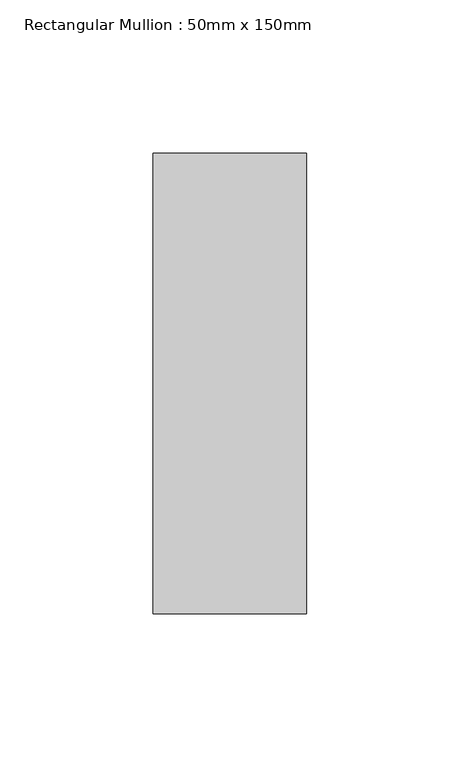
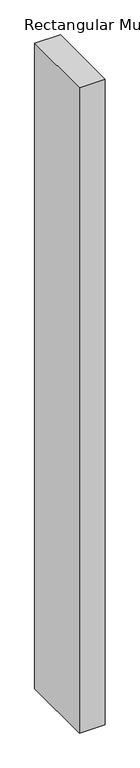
"""IFC4 building model written with IfcOpenShell, lengths in millimetres: member geometry, Rectangular Mullion : 50mm x 150mm."""

from ifc_helpers import new_model, si_unit, frame, origin, place, context, project, spatial, polyline, outline, extrude, source, transform, mapped, element, save


def rectangular_mullion_50mm_x_150mm_441f99ea(model_context):
    return source(origin(), model_context, "Body", "SweptSolid", [
        extrude(outline(polyline([(25.0, 75.0), (25.0, -75.0), (-25.0, -75.0), (-25.0, 75.0), (25.0, 75.0)])), frame((0.0, 0.0, -1325.0000002), z_axis=(0.0, 0.0, 1.0), x_axis=(1.0, 0.0, 0.0)), (0.0, 0.0, 1.0), 1325.0000002),
    ])


if __name__ == "__main__":
    model = new_model("IFC4")
    model_context = context("Model", 3, world=origin())
    ifc_project = project(units=[si_unit("LENGTHUNIT", "METRE", prefix="MILLI")], contexts=[model_context])
    site = spatial("IfcSite", under=ifc_project)
    building = spatial("IfcBuilding", under=site)
    placement = place(None, origin())
    rectangular_mullion_50mm_x_150mm_shape = rectangular_mullion_50mm_x_150mm_441f99ea(model_context)
    element("IfcMember", 1, ObjectType="Rectangular Mullion : 50mm x 150mm", at=placement, inside=building, context=model_context, shape_type="MappedRepresentation", body=[
        mapped(rectangular_mullion_50mm_x_150mm_shape, transform((0.0, 0.0, 0.0), x_axis=(1.0, 0.0, 0.0), y_axis=(0.0, 1.0, 0.0), z_axis=(0.0, 0.0, 1.0))),
    ])
    save(model, "model.ifc")
